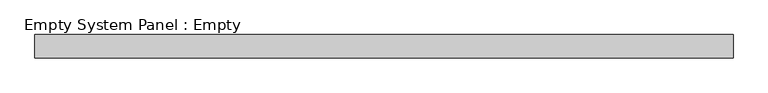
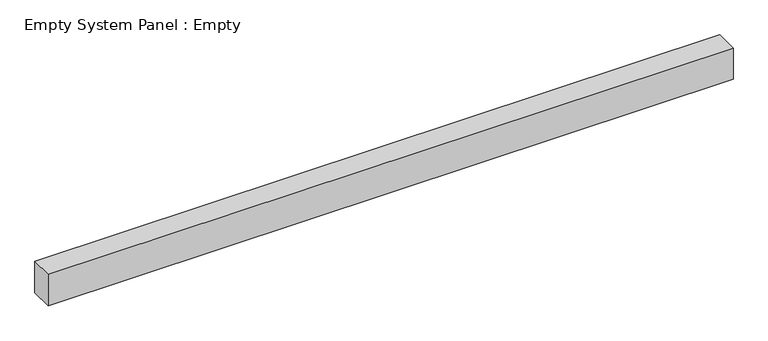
"""IFC4 building model written with IfcOpenShell, lengths in millimetres: plate geometry, Empty System Panel : Empty."""

from ifc_helpers import new_model, si_unit, origin, origin_with_axes, place, context, project, spatial, polyline, outline, extrude, source, transform, mapped, element, save


def empty_system_panel_empty_b4bf5bb1(model_context):
    return source(origin(), model_context, "Body", "SweptSolid", [
        extrude(outline(polyline([(1500.0, 50.0), (-1500.0, 50.0), (-1500.0, 150.0), (1500.0, 150.0), (1500.0, 50.0)])), origin_with_axes(), (0.0, 0.0, 1.0), 144.7754404),
    ])


if __name__ == "__main__":
    model = new_model("IFC4")
    model_context = context("Model", 3, world=origin())
    ifc_project = project(units=[si_unit("LENGTHUNIT", "METRE", prefix="MILLI")], contexts=[model_context])
    site = spatial("IfcSite", under=ifc_project)
    building = spatial("IfcBuilding", under=site)
    placement = place(None, origin())
    empty_system_panel_empty_shape = empty_system_panel_empty_b4bf5bb1(model_context)
    element("IfcPlate", 1, ObjectType="Empty System Panel : Empty", at=placement, inside=building, context=model_context, shape_type="MappedRepresentation", body=[
        mapped(empty_system_panel_empty_shape, transform((0.0, 0.0, 0.0), x_axis=(1.0, 0.0, 0.0), y_axis=(0.0, 1.0, 0.0), z_axis=(0.0, 0.0, 1.0))),
    ])
    save(model, "model.ifc")
